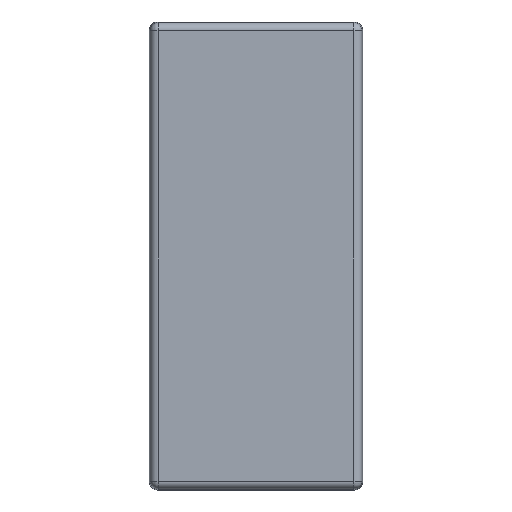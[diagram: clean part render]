
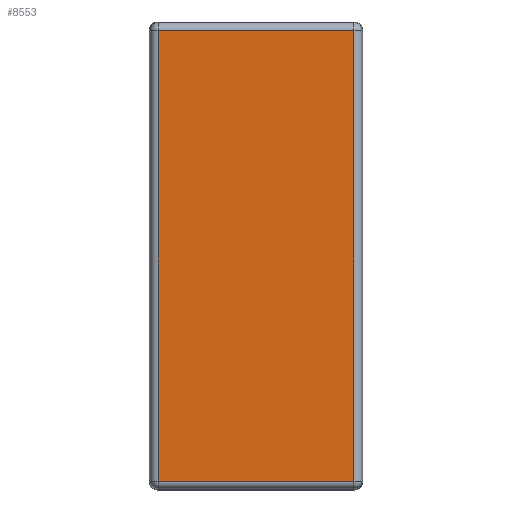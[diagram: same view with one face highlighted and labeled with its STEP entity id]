
A CAD part, front view. The second image highlights one B-rep face of the part: STEP entity #8553.
In plain terms, the highlighted planar face has unit normal (0, -1, 0).
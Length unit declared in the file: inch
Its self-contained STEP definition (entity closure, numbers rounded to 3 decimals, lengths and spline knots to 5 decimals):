
#16 = LINE ( 'NONE', #119, #4974 ) ;
#44 = AXIS2_PLACEMENT_3D ( 'NONE', #8171, #1742, #1943 ) ;
#119 = CARTESIAN_POINT ( 'NONE',  ( 0.98784, -1.2073, 1.9484 ) ) ;
#135 = CARTESIAN_POINT ( 'NONE',  ( -1.06578, -1.2073, 1.87046 ) ) ;
#164 = EDGE_LOOP ( 'NONE', ( #4400, #7827, #7061, #7568 ) ) ;
#665 = VERTEX_POINT ( 'NONE', #2916 ) ;
#1179 = VECTOR ( 'NONE', #9627, 39.37008 ) ;
#1457 = CARTESIAN_POINT ( 'NONE',  ( -0.98784, -1.2073, 0. ) ) ;
#1742 = DIRECTION ( 'NONE',  ( 0., 1., 0. ) ) ;
#1943 = DIRECTION ( 'NONE',  ( 0., 0., 1. ) ) ;
#2224 = DIRECTION ( 'NONE',  ( 0., 0., -1. ) ) ;
#2318 = VERTEX_POINT ( 'NONE', #5280 ) ;
#2916 = CARTESIAN_POINT ( 'NONE',  ( 0.98784, -1.2073, -2.67522 ) ) ;
#3187 = CARTESIAN_POINT ( 'NONE',  ( 0.98784, -1.2073, 1.87046 ) ) ;
#3362 = EDGE_CURVE ( 'NONE', #665, #6087, #16, .T. ) ;
#4036 = EDGE_CURVE ( 'NONE', #6606, #2318, #6863, .T. ) ;
#4091 = EDGE_CURVE ( 'NONE', #6087, #6606, #5525, .T. ) ;
#4139 = PLANE ( 'NONE',  #44 ) ;
#4400 = ORIENTED_EDGE ( 'NONE', *, *, #4036, .T. ) ;
#4627 = CARTESIAN_POINT ( 'NONE',  ( -0.98784, -1.2073, 1.87046 ) ) ;
#4974 = VECTOR ( 'NONE', #9392, 39.37008 ) ;
#5280 = CARTESIAN_POINT ( 'NONE',  ( -0.98784, -1.2073, -2.67522 ) ) ;
#5525 = LINE ( 'NONE', #135, #9475 ) ;
#6087 = VERTEX_POINT ( 'NONE', #3187 ) ;
#6606 = VERTEX_POINT ( 'NONE', #4627 ) ;
#6610 = LINE ( 'NONE', #7272, #1179 ) ;
#6863 = LINE ( 'NONE', #1457, #7338 ) ;
#7061 = ORIENTED_EDGE ( 'NONE', *, *, #3362, .T. ) ;
#7151 = DIRECTION ( 'NONE',  ( -1., 0., 0. ) ) ;
#7272 = CARTESIAN_POINT ( 'NONE',  ( 0., -1.2073, -2.67522 ) ) ;
#7338 = VECTOR ( 'NONE', #2224, 39.37008 ) ;
#7339 = FACE_OUTER_BOUND ( 'NONE', #164, .T. ) ;
#7568 = ORIENTED_EDGE ( 'NONE', *, *, #4091, .T. ) ;
#7788 = EDGE_CURVE ( 'NONE', #2318, #665, #6610, .T. ) ;
#7827 = ORIENTED_EDGE ( 'NONE', *, *, #7788, .T. ) ;
#8171 = CARTESIAN_POINT ( 'NONE',  ( 0., -1.2073, 0. ) ) ;
#8553 = ADVANCED_FACE ( 'NONE', ( #7339 ), #4139, .F. ) ;
#9392 = DIRECTION ( 'NONE',  ( 0., 0., 1. ) ) ;
#9475 = VECTOR ( 'NONE', #7151, 39.37008 ) ;
#9627 = DIRECTION ( 'NONE',  ( 1., 0., 0. ) ) ;
